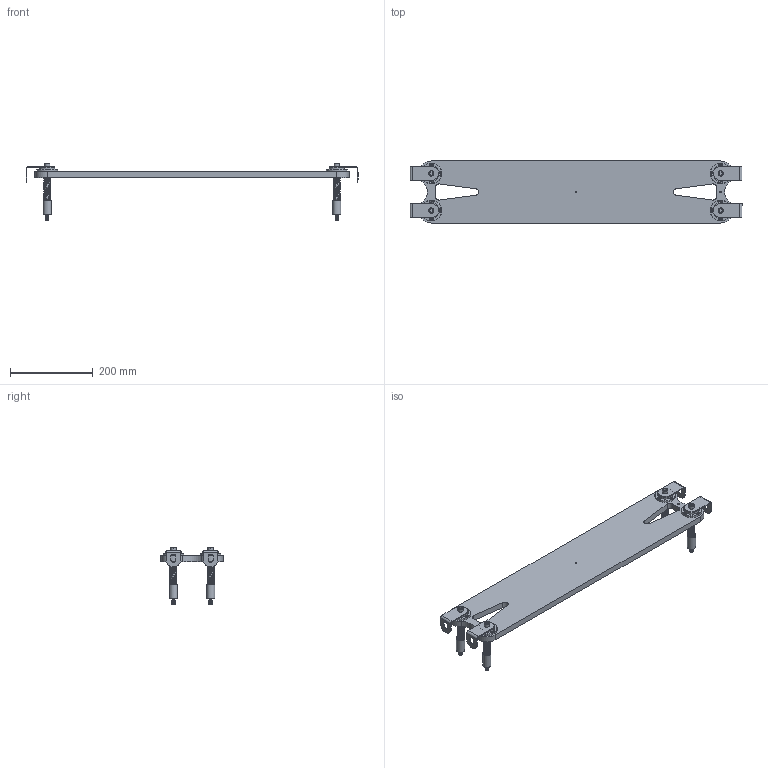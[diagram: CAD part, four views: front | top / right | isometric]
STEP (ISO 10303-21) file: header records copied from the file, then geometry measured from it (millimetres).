
FILE_DESCRIPTION (( 'STEP AP214' ), '1' );
FILE_NAME ('Floating Attachment 700x90.STEP', '2022-03-10T10:26:57', ( '' ), ( '' ), 'SwSTEP 2.0', 'SolidWorks 2020', '' );
FILE_SCHEMA (( 'AUTOMOTIVE_DESIGN' ));
Length unit declared in the file: millimetre
Products named in the file (1): Floating Attachment 700x90
Bounding box: 803 x 150 x 139 mm (x, y, z)
Surface area: 342882.8 mm2 (no closed solid volume)
Topology: 0 solids, 45 shells, 338 faces, 894 edges, 610 vertices
Faces by surface type: plane 136, cylinder 122, cone 36, bspline 28, torus 16
Full cylindrical faces by diameter (mm): 2 x1, 3.3 x16, 4.2 x1, 4.3 x12, 6 x4, 12 x4, 13 x4, 20 x4, 21 x4, 30 x4, 37 x4, 50 x4
Entity records: 30625 total; most frequent: CARTESIAN_POINT 19059, DIRECTION 1644, ORIENTED_EDGE 1282, EDGE_CURVE 768, AXIS2_PLACEMENT_3D 667, VERTEX_POINT 594, EDGE_LOOP 564, FACE_OUTER_BOUND 420
